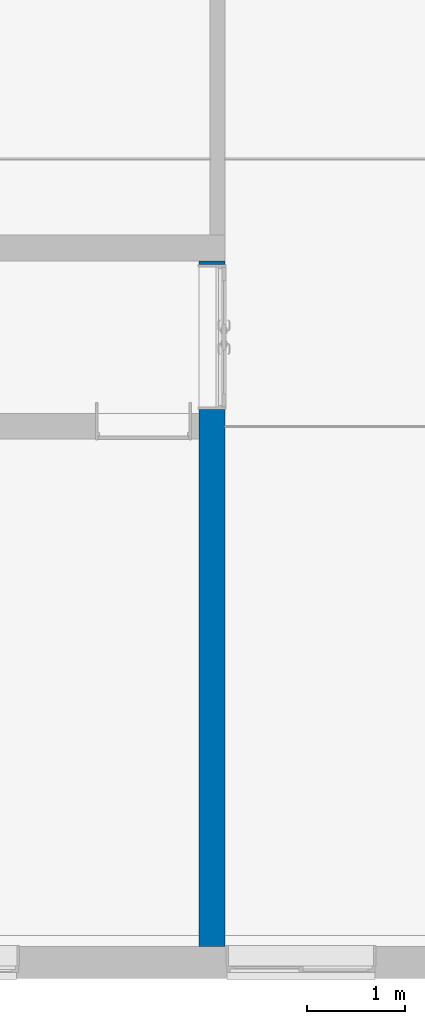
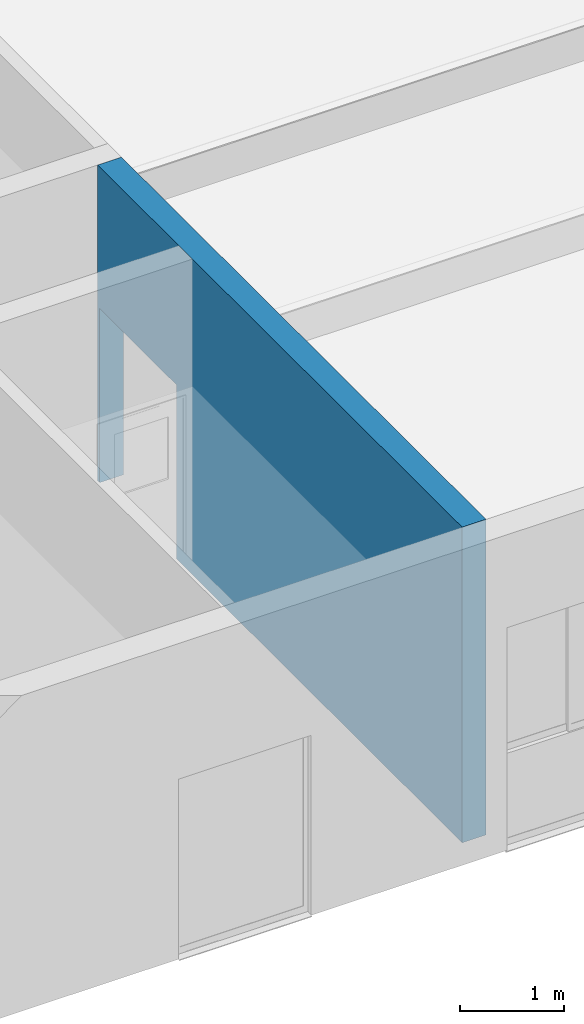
# One storey, part 12 of 15: 1 wall, 1 opening.
"""IFC4X3 building model written with IfcOpenShell, lengths in millimetres."""

import ifcopenshell
import ifcopenshell.guid

model = None  # the IFC model being written
_history = None  # IfcOwnerHistory: only IFC2X3 demands one
_inside = {}  # id of a spatial element -> (the spatial element, [elements in it])
_under = {}  # id of a project, library or spatial element -> (it, [spatial elements below it])
_declared = {}  # id of a project -> (the project, [libraries it declares])
_typed = {}  # id of a type object -> (the type object, [elements of that type])
_made_of = {}  # id of a material, layer set ... -> (it, [elements and type objects made of it])


def new_model(schema):
    """Start an empty IFC model of exactly this schema.

    Asked for "IFC4X3", IfcOpenShell would pick the latest addendum, in which some entities
    have other attributes; the version numbers below select the first issue.
    IFC2X3 requires an IfcOwnerHistory on every rooted entity: one is made here for all.
    """
    global model, _history
    if schema == "IFC4X3":
        model = ifcopenshell.file(schema_version=(4, 3, 0, 0))
    else:
        model = ifcopenshell.file(schema=schema)
    _inside.clear()
    _under.clear()
    _declared.clear()
    _typed.clear()
    _made_of.clear()
    _history = None
    if model.schema == "IFC2X3":
        org = make("IfcOrganization", Name="unknown")
        user = make(
            "IfcPersonAndOrganization",
            ThePerson=make("IfcPerson", FamilyName="unknown"),
            TheOrganization=org,
        )
        app = make(
            "IfcApplication",
            ApplicationDeveloper=org,
            Version="unknown",
            ApplicationFullName="unknown",
            ApplicationIdentifier="unknown",
        )
        _history = make(
            "IfcOwnerHistory",
            OwningUser=user,
            OwningApplication=app,
            ChangeAction="ADDED",
            CreationDate=0,
        )
    return model


def make(cls, **values):
    """One entity of the class cls with the attributes given. An attribute that is None is left unset."""
    return model.create_entity(
        cls, **{name: value for name, value in values.items() if value is not None}
    )


def entity(cls, *values):
    """Any entity or typed value of the class cls, its attributes in the order of the schema. None: left unset."""
    e = model.create_entity(cls)
    for i, value in enumerate(values):
        if value is not None:
            e[i] = value
    return e


def rooted(cls, **values):
    """An entity with a GlobalId (a new one), such as an element, a storey or a relation."""
    return make(cls, GlobalId=ifcopenshell.guid.new(), OwnerHistory=_history, **values)


def si_unit(unit_type, name, prefix=None):
    """IfcSIUnit, for example si_unit("LENGTHUNIT", "METRE", prefix="MILLI")."""
    return make("IfcSIUnit", UnitType=unit_type, Prefix=prefix, Name=name)


def converted_unit(unit_type, name, factor, base, dimensions=None, offset=None):
    """IfcConversionBasedUnit, such as the inch: factor (a typed value) times the base unit."""
    return make(
        "IfcConversionBasedUnit"
        if offset is None
        else "IfcConversionBasedUnitWithOffset",
        ConversionOffset=offset,
        Dimensions=None
        if dimensions is None
        else entity("IfcDimensionalExponents", *dimensions),
        UnitType=unit_type,
        Name=name,
        ConversionFactor=make(
            "IfcMeasureWithUnit", ValueComponent=factor, UnitComponent=base
        ),
    )


def derived_unit(unit_type, elements):
    """IfcDerivedUnit: a product of units, each with its exponent."""
    return make(
        "IfcDerivedUnit",
        Elements=[
            make("IfcDerivedUnitElement", Unit=unit, Exponent=power)
            for unit, power in elements
        ],
        UnitType=unit_type,
    )


def assignment(units):
    """IfcUnitAssignment: the units of a project."""
    return None if units is None else make("IfcUnitAssignment", Units=units)


def point(xyz):
    """IfcCartesianPoint."""
    return None if xyz is None else make("IfcCartesianPoint", Coordinates=xyz)


def direction(xyz):
    """IfcDirection."""
    return None if xyz is None else make("IfcDirection", DirectionRatios=xyz)


def frame(location, z_axis=None, x_axis=None):
    """IfcAxis2Placement3D, a coordinate frame: its origin and axes. An axis left out is left unset."""
    return make(
        "IfcAxis2Placement3D",
        Location=point(location),
        Axis=direction(z_axis),
        RefDirection=direction(x_axis),
    )


def frame_2d(location, x_axis=None):
    """IfcAxis2Placement2D, a coordinate frame in the plane: its origin and x axis."""
    return make(
        "IfcAxis2Placement2D", Location=point(location), RefDirection=direction(x_axis)
    )


def origin():
    """The frame at (0, 0, 0) with its axes left unset."""
    return frame((0.0, 0.0, 0.0))


def place(relative_to, where):
    """IfcLocalPlacement: puts the frame where relative to a parent placement (None: the world)."""
    return make(
        "IfcLocalPlacement", PlacementRelTo=relative_to, RelativePlacement=where
    )


def context(
    kind, dimensions, precision=None, world=None, true_north=None, identifier=None
):
    """IfcGeometricRepresentationContext, for example the 3D "Model" context."""
    return make(
        "IfcGeometricRepresentationContext",
        ContextIdentifier=identifier,
        ContextType=kind,
        CoordinateSpaceDimension=dimensions,
        Precision=precision,
        WorldCoordinateSystem=world,
        TrueNorth=true_north,
    )


def subcontext(parent, identifier, kind, view, scale=None):
    """IfcGeometricRepresentationSubContext, for example "Body" below "Model"."""
    return make(
        "IfcGeometricRepresentationSubContext",
        ContextIdentifier=identifier,
        ContextType=kind,
        ParentContext=parent,
        TargetScale=scale,
        TargetView=view,
    )


def project(units=None, contexts=None):
    """IfcProject with its units and contexts."""
    return rooted(
        "IfcProject",
        Name="project",
        RepresentationContexts=contexts,
        UnitsInContext=assignment(units),
    )


def spatial(cls, under=None, at=None, **own):
    """A site, building, storey or space (cls), placed at a placement, below another one or the project."""
    s = rooted(cls, ObjectPlacement=at, **own)
    if under is not None:
        _under.setdefault(under.id(), (under, []))[1].append(s)
    return s


def profile(cls, at=None, kind="AREA", **sizes):
    """A parametric profile (cls). Its sizes go by their IFC names, for example OverallWidth=200.0."""
    return make(cls, ProfileType=kind, Position=at, **sizes)


def rectangle(**sizes):
    """IfcRectangleProfileDef."""
    return profile("IfcRectangleProfileDef", **sizes)


def extrude(swept, where, along, depth):
    """IfcExtrudedAreaSolid: the profile swept, set in the frame where, extruded along a direction by depth."""
    return make(
        "IfcExtrudedAreaSolid",
        SweptArea=swept,
        Position=where,
        ExtrudedDirection=direction(along),
        Depth=depth,
    )


def shape(context_of_items, identifier, shape_type, items):
    """IfcShapeRepresentation: the items that make up one representation, for example the "Body"."""
    return make(
        "IfcShapeRepresentation",
        ContextOfItems=context_of_items,
        RepresentationIdentifier=identifier,
        RepresentationType=shape_type,
        Items=items,
    )


def material(Name=None, Category=None):
    """IfcMaterial."""
    return make("IfcMaterial", Name=Name, Category=Category)


def layer(
    of_material, thickness, ventilated=None, Name=None, Category=None, Priority=None
):
    """IfcMaterialLayer: one layer of a wall or slab, of a material (None: an air gap)."""
    return make(
        "IfcMaterialLayer",
        Material=of_material,
        LayerThickness=thickness,
        IsVentilated=ventilated,
        Name=Name,
        Category=Category,
        Priority=Priority,
    )


def layer_set(layers, Name=None):
    """IfcMaterialLayerSet."""
    return make("IfcMaterialLayerSet", MaterialLayers=layers, LayerSetName=Name)


def made_of(thing, what):
    """Note that an element or type object is made of a material, layer set ...; save() writes the relation."""
    if what is not None:
        _made_of.setdefault(what.id(), (what, []))[1].append(thing)
    return thing


def type_object(cls, material=None, **own):
    """A type object (cls), such as IfcWallType, which elements share."""
    return made_of(rooted(cls, **own), material)


def element(
    cls,
    number,
    at=None,
    inside=None,
    cuts=None,
    type_object=None,
    material=None,
    context=None,
    identifier="Body",
    shape_type=None,
    held_by="IfcProductDefinitionShape",
    body=None,
    shapes=None,
    **own,
):
    """One element of the class cls, such as IfcWall. Its Tag is "e" and its number.

    at: its placement. inside: the storey or other place that contains it. cuts: it is an
    opening in that element (IfcRelVoidsElement). A single representation is given by context,
    identifier, shape_type and body (its items); several are given by shapes. held_by: the class
    of the entity that holds the representations. save() writes the other relations.
    """
    e = rooted(cls, Tag="e%d" % number, ObjectPlacement=at, **own)
    if body is not None:
        shapes = [shape(context, identifier, shape_type, body)]
    if shapes is not None:
        e.Representation = make(held_by, Representations=shapes)
    if inside is not None:
        _inside.setdefault(inside.id(), (inside, []))[1].append(e)
    if cuts is not None:
        rooted(
            "IfcRelVoidsElement", RelatingBuildingElement=cuts, RelatedOpeningElement=e
        )
    if type_object is not None:
        _typed.setdefault(type_object.id(), (type_object, []))[1].append(e)
    return made_of(e, material)


def aggregate(whole, parts):
    """IfcRelAggregates: a whole, such as a stair, and the parts it consists of."""
    return rooted("IfcRelAggregates", RelatingObject=whole, RelatedObjects=parts)


def save(model, path):
    """Write the relations noted so far, then the file.

    IfcRelAggregates (storeys below a building ...), IfcRelContainedInSpatialStructure (elements
    in a storey), IfcRelDefinesByType, IfcRelAssociatesMaterial and IfcRelDeclares: one each for
    every whole, place, type object, material and project.
    """
    for whole, parts in _under.values():
        aggregate(whole, parts)
    for where, things in _inside.values():
        rooted(
            "IfcRelContainedInSpatialStructure",
            RelatedElements=things,
            RelatingStructure=where,
        )
    for kind, things in _typed.values():
        rooted("IfcRelDefinesByType", RelatedObjects=things, RelatingType=kind)
    for what, things in _made_of.values():
        rooted("IfcRelAssociatesMaterial", RelatedObjects=things, RelatingMaterial=what)
    for by, libraries in _declared.values():
        rooted("IfcRelDeclares", RelatingContext=by, RelatedDefinitions=libraries)
    model.write(path)


model = new_model("IFC4X3")

# Units and contexts
model_context = context("Model", 3, precision=0.01, world=origin(), true_north=direction((6.12303176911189e-17, 1.0)))
body_context = subcontext(model_context, "Body", "Model", "MODEL_VIEW")
ifc_project = project(units=[si_unit("LENGTHUNIT", "METRE", prefix="MILLI"), si_unit("AREAUNIT", "SQUARE_METRE"), si_unit("VOLUMEUNIT", "CUBIC_METRE"), converted_unit("PLANEANGLEUNIT", "DEGREE", entity("IfcPlaneAngleMeasure", 0.0174532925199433), si_unit("PLANEANGLEUNIT", "RADIAN"), dimensions=[0, 0, 0, 0, 0, 0, 0]), si_unit("MASSUNIT", "GRAM", prefix="KILO"), derived_unit("MASSDENSITYUNIT", [(si_unit("MASSUNIT", "GRAM", prefix="KILO"), 1), (si_unit("LENGTHUNIT", "METRE"), -3)]), derived_unit("IONCONCENTRATIONUNIT", [(si_unit("MASSUNIT", "GRAM", prefix="KILO"), 1), (si_unit("LENGTHUNIT", "METRE"), -3)]), derived_unit("MOMENTOFINERTIAUNIT", [(si_unit("LENGTHUNIT", "METRE"), 4)]), si_unit("TIMEUNIT", "SECOND"), si_unit("FREQUENCYUNIT", "HERTZ"), si_unit("THERMODYNAMICTEMPERATUREUNIT", "DEGREE_CELSIUS"), derived_unit("THERMALTRANSMITTANCEUNIT", [(si_unit("MASSUNIT", "GRAM", prefix="KILO"), 1), (si_unit("THERMODYNAMICTEMPERATUREUNIT", "KELVIN"), -1), (si_unit("TIMEUNIT", "SECOND"), -3)]), derived_unit("THERMALCONDUCTANCEUNIT", [(si_unit("MASSUNIT", "GRAM", prefix="KILO"), 1), (si_unit("THERMODYNAMICTEMPERATUREUNIT", "KELVIN"), -1), (si_unit("TIMEUNIT", "SECOND"), -3), (si_unit("LENGTHUNIT", "METRE"), 1)]), derived_unit("VOLUMETRICFLOWRATEUNIT", [(si_unit("LENGTHUNIT", "METRE", prefix="DECI"), 3), (si_unit("TIMEUNIT", "SECOND"), -1)]), derived_unit("MASSFLOWRATEUNIT", [(si_unit("MASSUNIT", "GRAM", prefix="KILO"), 1), (si_unit("TIMEUNIT", "SECOND"), -1)]), derived_unit("ROTATIONALFREQUENCYUNIT", [(si_unit("TIMEUNIT", "SECOND"), -1)]), si_unit("ELECTRICCURRENTUNIT", "AMPERE"), si_unit("ELECTRICVOLTAGEUNIT", "VOLT"), si_unit("POWERUNIT", "WATT"), si_unit("FORCEUNIT", "NEWTON", prefix="KILO"), si_unit("ILLUMINANCEUNIT", "LUX"), si_unit("LUMINOUSFLUXUNIT", "LUMEN"), si_unit("LUMINOUSINTENSITYUNIT", "CANDELA"), si_unit("ENERGYUNIT", "JOULE"), derived_unit("USERDEFINED", [(si_unit("MASSUNIT", "GRAM", prefix="KILO"), -1), (si_unit("LENGTHUNIT", "METRE"), -2), (si_unit("TIMEUNIT", "SECOND"), 3), (si_unit("LUMINOUSFLUXUNIT", "LUMEN"), 1)]), derived_unit("USERDEFINED", [(si_unit("MASSUNIT", "GRAM", prefix="KILO"), 1), (si_unit("TIMEUNIT", "SECOND"), -3), (si_unit("LENGTHUNIT", "METRE"), 3), (si_unit("ELECTRICCURRENTUNIT", "AMPERE"), -2)]), derived_unit("SOUNDPOWERUNIT", [(si_unit("MASSUNIT", "GRAM", prefix="KILO"), 1), (si_unit("TIMEUNIT", "SECOND"), -3), (si_unit("LENGTHUNIT", "METRE"), 2)]), derived_unit("SOUNDPRESSUREUNIT", [(si_unit("MASSUNIT", "GRAM", prefix="KILO"), 1), (si_unit("LENGTHUNIT", "METRE"), -1), (si_unit("TIMEUNIT", "SECOND"), -2)]), derived_unit("LINEARVELOCITYUNIT", [(si_unit("LENGTHUNIT", "METRE"), 1), (si_unit("TIMEUNIT", "SECOND"), -1)]), si_unit("PRESSUREUNIT", "PASCAL"), derived_unit("USERDEFINED", [(si_unit("MASSUNIT", "GRAM", prefix="KILO"), 1), (si_unit("LENGTHUNIT", "METRE"), -2), (si_unit("TIMEUNIT", "SECOND"), -2)]), derived_unit("LINEARFORCEUNIT", [(si_unit("MASSUNIT", "GRAM", prefix="KILO"), 1), (si_unit("TIMEUNIT", "SECOND"), -2)]), derived_unit("PLANARFORCEUNIT", [(si_unit("MASSUNIT", "GRAM", prefix="KILO"), 1), (si_unit("LENGTHUNIT", "METRE"), -1), (si_unit("TIMEUNIT", "SECOND"), -2)]), derived_unit("SPECIFICHEATCAPACITYUNIT", [(si_unit("THERMODYNAMICTEMPERATUREUNIT", "KELVIN"), -1), (si_unit("LENGTHUNIT", "METRE"), 2), (si_unit("TIMEUNIT", "SECOND"), -2)]), derived_unit("HEATFLUXDENSITYUNIT", [(si_unit("MASSUNIT", "GRAM", prefix="KILO"), 1), (si_unit("TIMEUNIT", "SECOND"), -3)]), derived_unit("HEATINGVALUEUNIT", [(si_unit("LENGTHUNIT", "METRE"), 2), (si_unit("TIMEUNIT", "SECOND"), -2)]), derived_unit("VAPORPERMEABILITYUNIT", [(si_unit("LENGTHUNIT", "METRE"), -1), (si_unit("TIMEUNIT", "SECOND"), 1)]), derived_unit("DYNAMICVISCOSITYUNIT", [(si_unit("MASSUNIT", "GRAM", prefix="KILO"), 1), (si_unit("TIMEUNIT", "SECOND"), -1), (si_unit("LENGTHUNIT", "METRE"), -1)]), derived_unit("THERMALEXPANSIONCOEFFICIENTUNIT", [(si_unit("THERMODYNAMICTEMPERATUREUNIT", "KELVIN"), -1)]), derived_unit("MODULUSOFELASTICITYUNIT", [(si_unit("MASSUNIT", "GRAM", prefix="KILO"), 1), (si_unit("LENGTHUNIT", "METRE"), -1), (si_unit("TIMEUNIT", "SECOND"), -2)]), derived_unit("ISOTHERMALMOISTURECAPACITYUNIT", [(si_unit("MASSUNIT", "GRAM", prefix="KILO"), -1), (si_unit("LENGTHUNIT", "METRE"), 3)]), derived_unit("MOISTUREDIFFUSIVITYUNIT", [(si_unit("TIMEUNIT", "SECOND"), -1), (si_unit("LENGTHUNIT", "METRE"), 2)]), derived_unit("AREADENSITYUNIT", [(si_unit("MASSUNIT", "GRAM", prefix="KILO"), 1), (si_unit("LENGTHUNIT", "METRE"), 2)]), derived_unit("MASSPERLENGTHUNIT", [(si_unit("MASSUNIT", "GRAM", prefix="KILO"), 1), (si_unit("LENGTHUNIT", "METRE"), -1)]), derived_unit("THERMALRESISTANCEUNIT", [(si_unit("MASSUNIT", "GRAM", prefix="KILO"), -1), (si_unit("TIMEUNIT", "SECOND"), 3), (si_unit("THERMODYNAMICTEMPERATUREUNIT", "KELVIN"), 1)]), derived_unit("ACCELERATIONUNIT", [(si_unit("LENGTHUNIT", "METRE"), 1), (si_unit("TIMEUNIT", "SECOND"), -2)]), derived_unit("ANGULARVELOCITYUNIT", [(si_unit("TIMEUNIT", "SECOND"), -1), (si_unit("PLANEANGLEUNIT", "RADIAN"), 1)]), derived_unit("LINEARSTIFFNESSUNIT", [(si_unit("MASSUNIT", "GRAM", prefix="KILO"), 1), (si_unit("TIMEUNIT", "SECOND"), -2)]), derived_unit("WARPINGCONSTANTUNIT", [(si_unit("LENGTHUNIT", "METRE"), 6)]), derived_unit("LINEARMOMENTUNIT", [(si_unit("MASSUNIT", "GRAM", prefix="KILO"), 1), (si_unit("LENGTHUNIT", "METRE"), 1), (si_unit("TIMEUNIT", "SECOND"), -2)]), derived_unit("TORQUEUNIT", [(si_unit("MASSUNIT", "GRAM", prefix="KILO"), 1), (si_unit("LENGTHUNIT", "METRE"), 2), (si_unit("TIMEUNIT", "SECOND"), -2)])], contexts=[model_context])

# Site, building, storey
site_placement = place(None, origin())
site = spatial("IfcSite", under=ifc_project, at=site_placement, Name="Default", CompositionType="ELEMENT")
building_placement = place(site_placement, origin())
building = spatial("IfcBuilding", under=site, at=building_placement, Name="事務所ビル", CompositionType="ELEMENT")
storey_placement = place(building_placement, frame((0.0, 0.0, 4300.0)))
storey = spatial("IfcBuildingStorey", under=building, at=storey_placement, Name="2FL", CompositionType="ELEMENT", Elevation=4300.0)

# Wall, opening
ifc_material_1 = material(Name="せっこうボード", Category="一般")
ifc_layer_1 = layer(ifc_material_1, 15.0, Name="せっこうボード", Category="一般")
ifc_material_2 = material(Name="合板", Category="一般")
ifc_layer_2 = layer(ifc_material_2, 12.0, Name="合板", Category="一般")
ifc_material_3 = material(Name="天然木材", Category="一般")
ifc_layer_3 = layer(ifc_material_3, 210.0, Name="天然木材", Category="一般")
ifc_layer_4 = layer(ifc_material_2, 12.0, Name="合板", Category="一般")
ifc_layer_5 = layer(ifc_material_1, 15.0, Name="せっこうボード", Category="一般")
ifc_layer_set = layer_set([ifc_layer_1, ifc_layer_2, ifc_layer_3, ifc_layer_4, ifc_layer_5], Name="標準壁:GB-R15_構造用合板12_木210_構造用合板12_GB-R15")
wall_type = type_object("IfcWallType", Name="標準壁:GB-R15_構造用合板12_木210_構造用合板12_GB-R15", PredefinedType="STANDARD", material=ifc_layer_set)
wall_placement = place(storey_placement, frame((38220.0, 147.0, 0.0), z_axis=(0.0, 0.0, 1.0), x_axis=(0.0, 1.0, 0.0)))
wall = element("IfcWall", 1, at=wall_placement, inside=storey, type_object=wall_type, material=ifc_layer_set, Name="標準壁:GB-R15_構造用合板12_木210_構造用合板12_GB-R15", ObjectType="標準壁:GB-R15_構造用合板12_木210_構造用合板12_GB-R15", PredefinedType="NOTDEFINED", context=body_context, shape_type="SweptSolid", body=[
    extrude(rectangle(XDim=7001.0000000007, YDim=264.000000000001, at=frame_2d((3500.50000000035, -2.41584530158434e-13), x_axis=(1.0, 0.0))), origin(), (0.0, 0.0, 1.0), 3700.0),
])
opening_placement = place(wall_placement, frame((6963.0, 132.0, -15.0)))
element("IfcOpeningElement", 2, at=opening_placement, cuts=wall, Name="鋼製_大枠_両開き_框:1400x2000:1", PredefinedType="OPENING", context=body_context, shape_type="SweptSolid", body=[
    extrude(rectangle(XDim=2055.00000000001, YDim=1480.0, at=frame_2d((1027.5, 740.0), x_axis=(-1.0, 0.0))), frame((0.0, 0.0, 0.0), z_axis=(0.0, -1.0, 0.0), x_axis=(0.0, 0.0, 1.0)), (0.0, 0.0, 1.0), 264.0),
])

save(model, "model.ifc")
